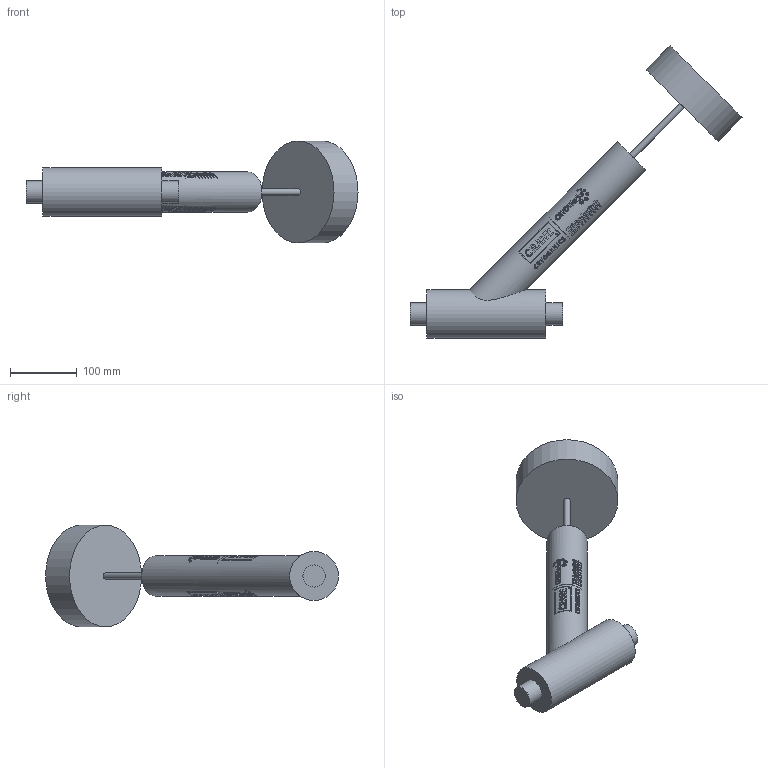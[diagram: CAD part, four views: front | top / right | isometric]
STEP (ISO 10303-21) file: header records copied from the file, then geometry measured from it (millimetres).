
FILE_DESCRIPTION (( 'STEP AP203' ), '1' );
FILE_NAME ('1in Y-Pattern Manual TF Valve.step', '2025-12-17T20:08:25', ( '' ), ( '' ), 'SwSTEP 2.0', 'SolidWorks 2023', '' );
FILE_SCHEMA (( 'CONFIG_CONTROL_DESIGN' ));
Length unit declared in the file: inch
Products named in the file (1): 1in Y-Pattern Manual TF Valve
Bounding box: 497.39 x 438.65 x 152.4 mm (x, y, z)
Volume: 2540251.8 mm3; surface area: 183463.2 mm2
Topology: 1 solids, 1 shells, 1153 faces, 2946 edges, 1964 vertices
Faces by surface type: plane 743, cylinder 304, bspline 106
Full cylindrical faces by diameter (mm): 0.896 x2, 0.982 x2, 1.067 x2, 1.223 x2, 1.381 x2, 1.78 x2, 1.842 x2, 2.045 x2, 2.179 x2, 2.284 x2, 2.405 x2, 2.744 x2, 3.706 x2, 4.578 x2, 5.539 x2, 6.45 x2, 9.525 x1, 33.401 x2, 60.325 x1, 73.025 x1, 152.4 x1
Entity records: 48375 total; most frequent: CARTESIAN_POINT 23001, ORIENTED_EDGE 5784, DIRECTION 4314, EDGE_CURVE 2892, VERTEX_POINT 1964, LINE 1532, VECTOR 1532, AXIS2_PLACEMENT_3D 1391
